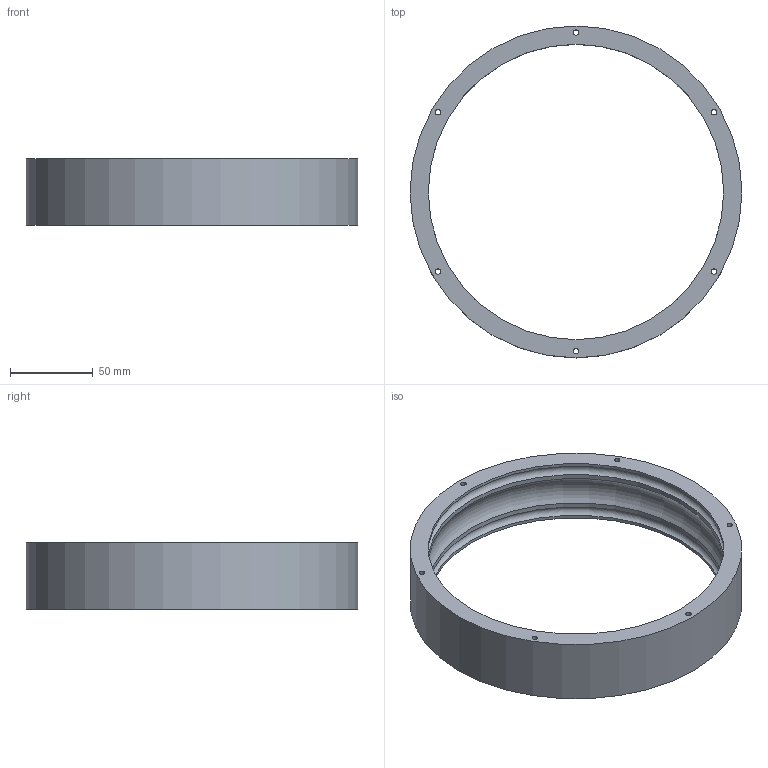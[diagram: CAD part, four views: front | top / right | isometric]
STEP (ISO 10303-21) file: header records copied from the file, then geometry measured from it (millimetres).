
FILE_DESCRIPTION( ( 'Unknown' ), '1' );
FILE_NAME( 'F:/navkite transat/construction/2016/3D ET ASSEMBLAGES/self tailing/WI 02.stp', 'Unknown', ( 'GMA' ), ( 'Unknown' ), 'XStep 1.0', 'Unknown', ' ' );
FILE_SCHEMA( ( 'automotive_design' ) );
Length unit declared in the file: millimetre
Products named in the file (1): 1
Bounding box: 200 x 200 x 40 mm (x, y, z)
Volume: 222231.8 mm3; surface area: 67226.7 mm2
Topology: 1 solids, 1 shells, 16 faces, 42 edges, 28 vertices
Faces by surface type: cylinder 8, cone 3, torus 3, plane 2
Full cylindrical faces by diameter (mm): 3.242 x6, 178.002 x1, 200 x1
Entity records: 556 total; most frequent: DIRECTION 78, CARTESIAN_POINT 61, EDGE_LOOP 44, ORIENTED_EDGE 44, AXIS2_PLACEMENT_3D 39, FACE_OUTER_BOUND 27, EDGE_CURVE 22, VERTEX_POINT 22
